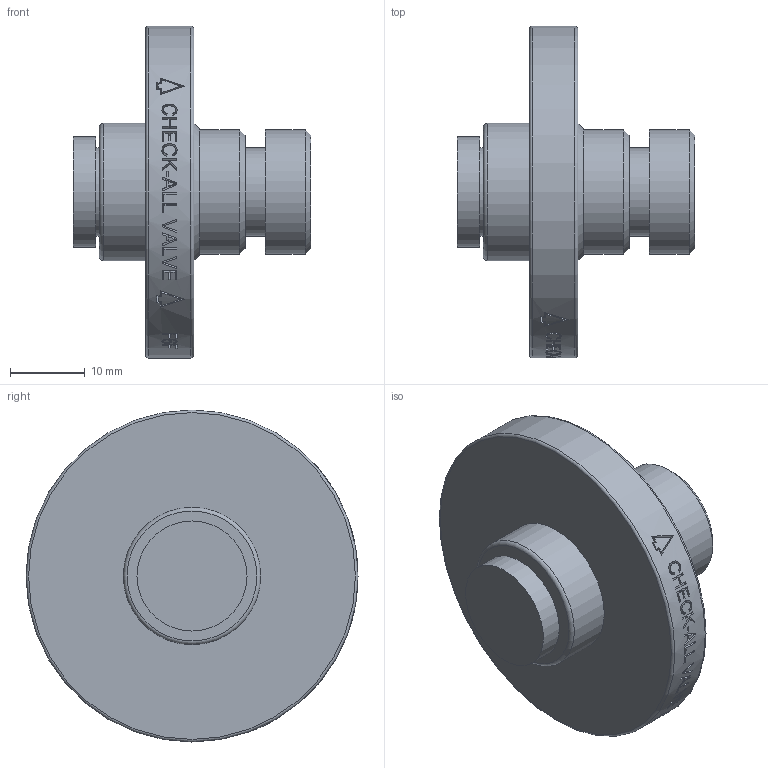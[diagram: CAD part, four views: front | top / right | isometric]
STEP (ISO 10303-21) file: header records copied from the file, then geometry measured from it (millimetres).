
FILE_DESCRIPTION( ( 'Unknown' ), '1' );
FILE_NAME( 'Y:/ENGR/3D Solid Edge Models/F6/F6 STEP/F6F.stp', 'Unknown', ( 'Unknown' ), ( 'Unknown' ), 'PSStep 14.0', 'Unknown', ' ' );
FILE_SCHEMA( ( 'AUTOMOTIVE_DESIGN { 1 0 10303 214 1 1 1 1 }' ) );
Length unit declared in the file: millimetre
Products named in the file (1): 1
Bounding box: 31.85 x 44.45 x 44.45 mm (x, y, z)
Volume: 15324 mm3; surface area: 5790 mm2
Topology: 1 solids, 1 shells, 212 faces, 532 edges, 353 vertices
Faces by surface type: plane 130, bspline 45, cylinder 31, torus 3, cone 3
Full cylindrical faces by diameter (mm): 11.786 x2, 14.732 x1, 16.637 x2, 18.39 x1, 44.45 x1
Entity records: 9172 total; most frequent: CARTESIAN_POINT 3526, ORIENTED_EDGE 1036, EDGE_CURVE 518, B_SPLINE_CURVE_WITH_KNOTS 497, DIRECTION 378, VERTEX_POINT 353, EDGE_LOOP 257, FACE_OUTER_BOUND 223
